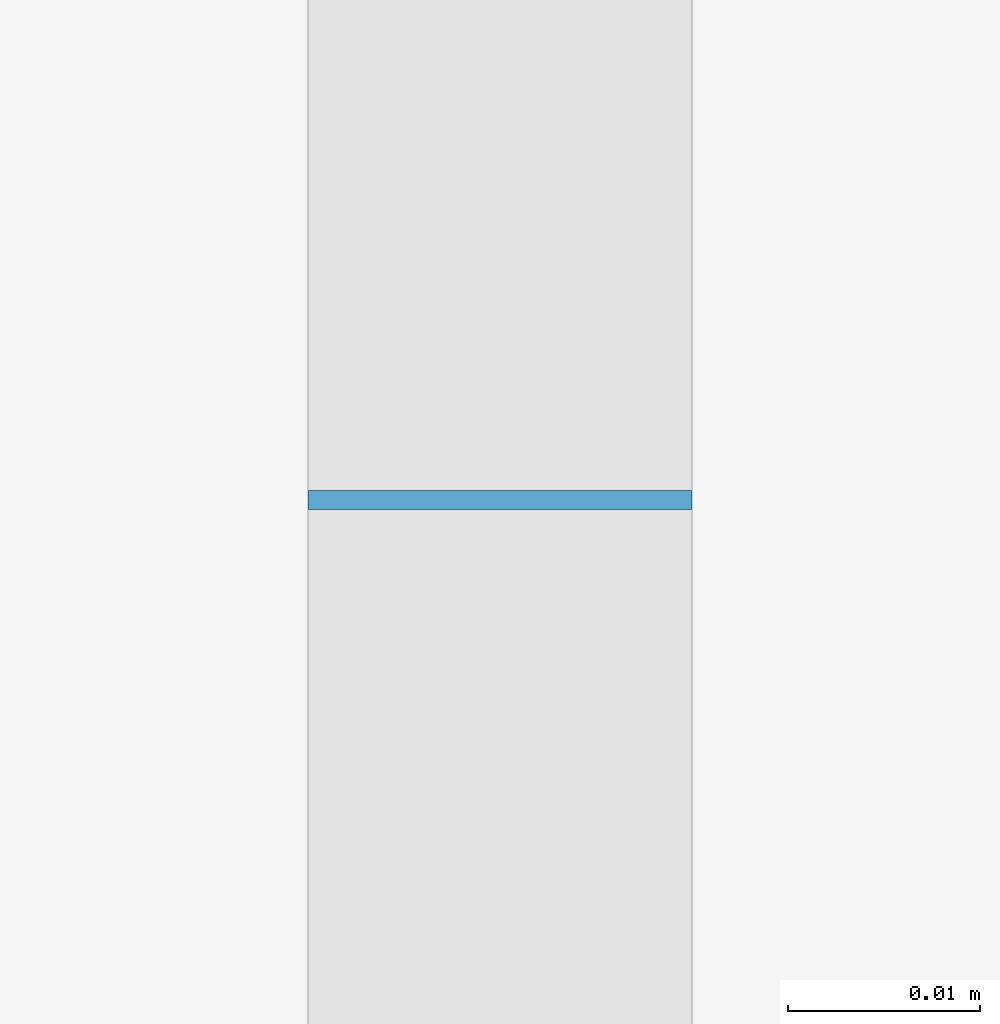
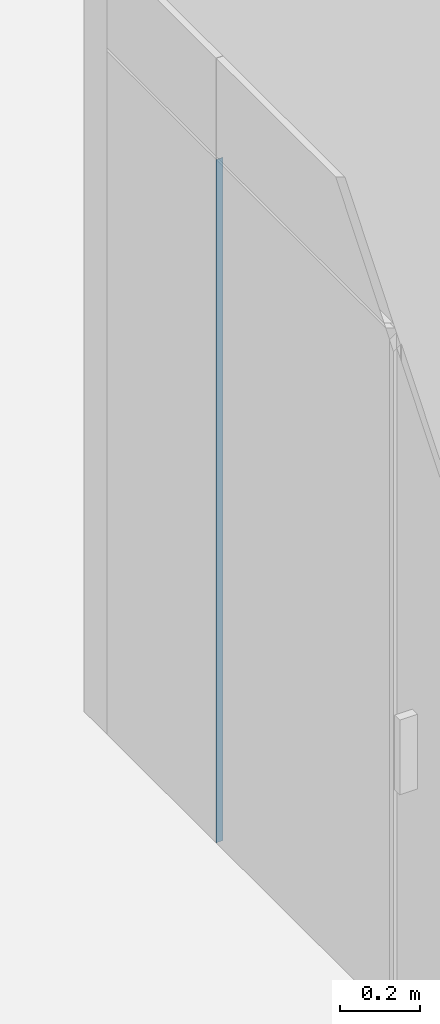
# One storey, part 25 of 66: 1 plate, 1 element without a shape of its own.
"""IFC2X3 building model written with IfcOpenShell, lengths in millimetres."""

from ifc_helpers import new_model, entity, si_unit, converted_unit, derived_unit, direction, frame, origin, origin_2d_with_axis, place, context, subcontext, project, spatial, rectangle, extrude, source, transform, mapped, material, layer, layer_set, layer_usage, type_object, type_shapes, element, aggregate, save


model = new_model("IFC2X3")

# Units and contexts
model_context = context("Model", 3, precision=0.01, world=origin(), true_north=direction((6.12303176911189e-17, 1.0)))
body_context = subcontext(model_context, "Body", "Model", "MODEL_VIEW")
ifc_project = project(units=[si_unit("LENGTHUNIT", "METRE", prefix="MILLI"), si_unit("AREAUNIT", "SQUARE_METRE"), si_unit("VOLUMEUNIT", "CUBIC_METRE"), converted_unit("PLANEANGLEUNIT", "DEGREE", entity("IfcRatioMeasure", 0.0174532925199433), si_unit("PLANEANGLEUNIT", "RADIAN"), dimensions=[0, 0, 0, 0, 0, 0, 0]), si_unit("MASSUNIT", "GRAM", prefix="KILO"), derived_unit("MASSDENSITYUNIT", [(si_unit("MASSUNIT", "GRAM", prefix="KILO"), 1), (si_unit("LENGTHUNIT", "METRE"), -3)]), si_unit("TIMEUNIT", "SECOND"), si_unit("FREQUENCYUNIT", "HERTZ"), si_unit("THERMODYNAMICTEMPERATUREUNIT", "DEGREE_CELSIUS"), derived_unit("THERMALTRANSMITTANCEUNIT", [(si_unit("MASSUNIT", "GRAM", prefix="KILO"), 1), (si_unit("THERMODYNAMICTEMPERATUREUNIT", "KELVIN"), -1), (si_unit("TIMEUNIT", "SECOND"), -3)]), derived_unit("VOLUMETRICFLOWRATEUNIT", [(si_unit("LENGTHUNIT", "METRE"), 3), (si_unit("TIMEUNIT", "SECOND"), -1)]), si_unit("ELECTRICCURRENTUNIT", "AMPERE"), si_unit("ELECTRICVOLTAGEUNIT", "VOLT"), si_unit("POWERUNIT", "WATT"), si_unit("FORCEUNIT", "NEWTON", prefix="KILO"), si_unit("ILLUMINANCEUNIT", "LUX"), si_unit("LUMINOUSFLUXUNIT", "LUMEN"), si_unit("LUMINOUSINTENSITYUNIT", "CANDELA"), derived_unit("USERDEFINED", [(si_unit("MASSUNIT", "GRAM", prefix="KILO"), -1), (si_unit("LENGTHUNIT", "METRE"), -2), (si_unit("TIMEUNIT", "SECOND"), 3), (si_unit("LUMINOUSFLUXUNIT", "LUMEN"), 1)]), derived_unit("LINEARVELOCITYUNIT", [(si_unit("LENGTHUNIT", "METRE"), 1), (si_unit("TIMEUNIT", "SECOND"), -1)]), si_unit("PRESSUREUNIT", "PASCAL"), derived_unit("USERDEFINED", [(si_unit("LENGTHUNIT", "METRE"), -2), (si_unit("MASSUNIT", "GRAM", prefix="KILO"), 1), (si_unit("TIMEUNIT", "SECOND"), -2)])], contexts=[model_context])

# Site, building, storey
site_placement = place(None, frame((-151.875543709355, 2715.0, 0.0)))
site = spatial("IfcSite", under=ifc_project, at=site_placement, Name="Surface", CompositionType="ELEMENT")
building_placement = place(site_placement, origin())
building = spatial("IfcBuilding", under=site, at=building_placement, CompositionType="ELEMENT")
storey_placement = place(building_placement, frame((0.0, 0.0, 3350.0)))
storey = spatial("IfcBuildingStorey", under=building, at=storey_placement, Name="2 korrus", CompositionType="ELEMENT", Elevation=3350.00000000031)

# Curtain wall, plate
curtain_wall_type = type_object("IfcCurtainWallType", Name="Curtain Wall:Klaassein KLS-05", PredefinedType="NOTDEFINED")
curtain_wall_placement = place(storey_placement, frame((0.0, 0.0, -3350.0)))
curtain_wall = element("IfcCurtainWall", 1, at=curtain_wall_placement, inside=storey, type_object=curtain_wall_type, Name="Curtain Wall:Klaassein KLS-05", ObjectType="Curtain Wall:Klaassein KLS-05")
ifc_material = material(Name="<Unnamed>")
ifc_layer = layer(ifc_material, 20.0)
ifc_layer_set = layer_set([ifc_layer], Name="Curtain Wall:Klaassein KLS-01")
ifc_layer_usage = layer_usage(ifc_layer_set, "AXIS3", "POSITIVE", 0.0)
plate_type = type_object("IfcPlateType", Name="Glazed", PredefinedType="CURTAIN_PANEL", material=ifc_layer_set)
shared_shape = source(origin(), body_context, "Body", "SweptSolid", [
    extrude(rectangle(XDim=20.0, YDim=0.999999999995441, at=origin_2d_with_axis()), frame((0.0, 0.0, 0.0), z_axis=(0.0, 0.0, 1.0), x_axis=(0.0, 1.0, 0.0)), (0.0, 0.0, 1.0), 2090.0),
])
type_shapes(plate_type, [shared_shape])
plate_placement = place(curtain_wall_placement, frame((24073.28599988, 8399.58011854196, 3350.0), z_axis=(0.0, 0.0, 1.0), x_axis=(0.0, -1.0, 0.0)))
plate = element("IfcPlate", 2, at=plate_placement, type_object=plate_type, material=ifc_layer_usage, Name="System Panel:Glazed", ObjectType="Glazed", context=body_context, shape_type="MappedRepresentation", body=[
    mapped(shared_shape, transform((0.0, 0.0, 0.0), scale=1.0)),
])
aggregate(curtain_wall, [plate])

save(model, "model.ifc")
